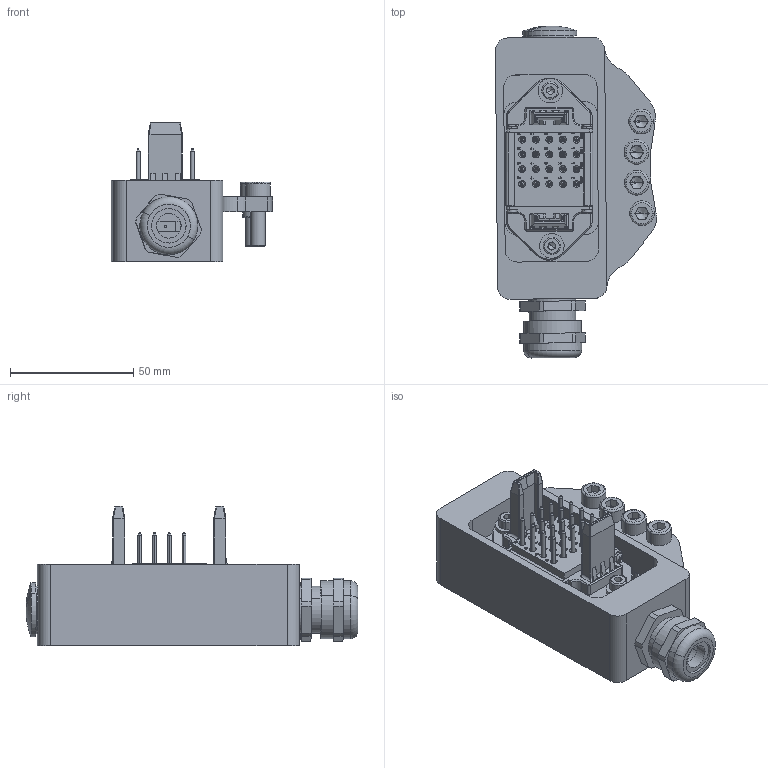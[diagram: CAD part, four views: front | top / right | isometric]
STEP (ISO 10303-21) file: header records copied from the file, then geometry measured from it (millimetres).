
FILE_DESCRIPTION (( 'STEP AP203' ), '1' );
FILE_NAME ('QCSM-CP-25G（可外发）.STEP', '2024-01-02T01:54:51', ( '' ), ( '' ), 'SwSTEP 2.0', 'SolidWorks 2022', '' );
FILE_SCHEMA (( 'CONFIG_CONTROL_DESIGN' ));
Length unit declared in the file: millimetre
Products named in the file (1): QCSM-CP-25G（可外发）
Bounding box: 65.39 x 134.71 x 56.5 mm (x, y, z)
Volume: 126931 mm3; surface area: 53618.2 mm2
Topology: 1 solids, 73 shells, 2547 faces, 6101 edges, 3828 vertices
Faces by surface type: plane 1173, cylinder 774, cone 276, bspline 168, torus 148, sphere 8
Entity records: 90710 total; most frequent: CARTESIAN_POINT 31707, DIRECTION 12195, ORIENTED_EDGE 12050, EDGE_CURVE 6025, AXIS2_PLACEMENT_3D 4396, VERTEX_POINT 3828, VECTOR 3403, LINE 3403
